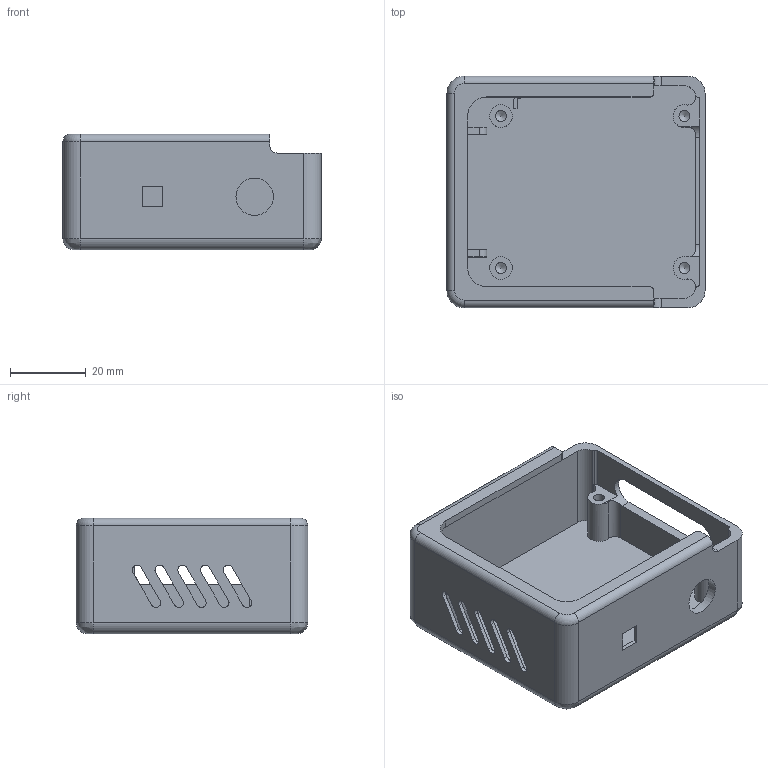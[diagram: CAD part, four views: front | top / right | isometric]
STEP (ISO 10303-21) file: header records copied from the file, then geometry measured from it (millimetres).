
FILE_DESCRIPTION(/* description */ (''),/* implementation_level */ '2;1');
FILE_NAME(/* name */ '',/* time_stamp */ '2025-04-19T20:47:48+08:00',/* author */ ('rhj19'),/* organization */ (''),/* preprocessor_version */ 'ST-DEVELOPER v20',/* originating_system */ 'Autodesk Inventor 2024',/* authorisation */ '');
FILE_SCHEMA (('AUTOMOTIVE_DESIGN { 1 0 10303 214 3 1 1 }'));
Length unit declared in the file: millimetre
Products named in the file (1): 外壳
Bounding box: 68 x 61 x 30.5 mm (x, y, z)
Volume: 25531.2 mm3; surface area: 23958.4 mm2
Topology: 1 solids, 1 shells, 153 faces, 432 edges, 281 vertices
Faces by surface type: plane 79, cylinder 62, cone 4, torus 4, bspline 4
Full cylindrical faces by diameter (mm): 2.9 x4, 6 x2, 9.85 x1, 14.2 x1
Entity records: 5076 total; most frequent: CARTESIAN_POINT 941, DIRECTION 865, ORIENTED_EDGE 856, EDGE_CURVE 428, AXIS2_PLACEMENT_3D 292, LINE 281, VECTOR 281, VERTEX_POINT 281
